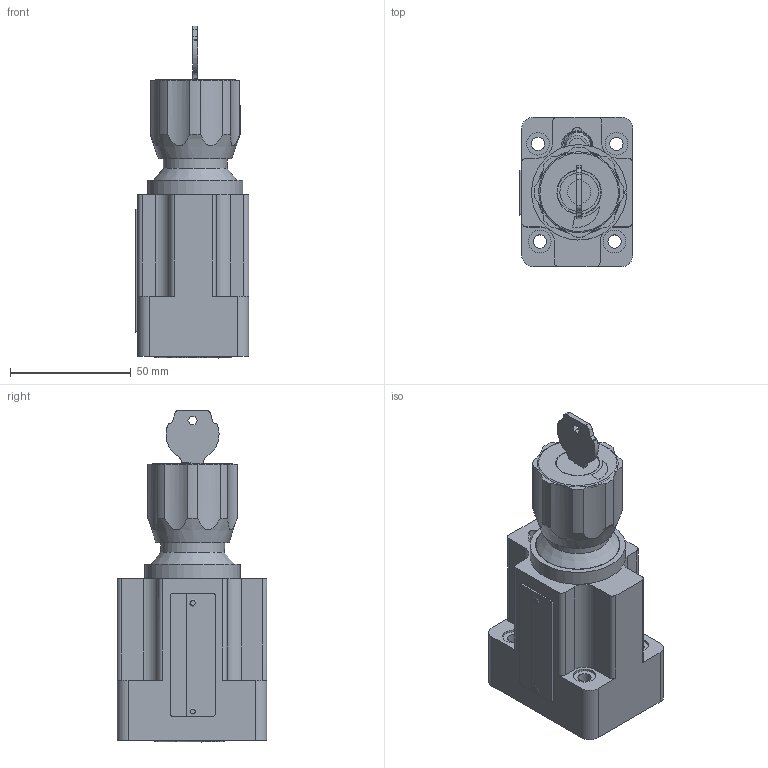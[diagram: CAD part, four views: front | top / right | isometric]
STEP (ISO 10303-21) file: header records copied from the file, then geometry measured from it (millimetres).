
FILE_DESCRIPTION(/* description */ (''),/* implementation_level */ '2;1');
FILE_NAME(/* name */ '2FRM6-36-3XJ-R调速阀.prt.stp',/* time_stamp */ '2022-03-30T19:55:30+08:00',/* author */ (''),/* organization */ (''),/* preprocessor_version */ 'ST-DEVELOPER v16.7',/* originating_system */ 'SIEMENS PLM Software NX 12.0',/* authorisation */ '');
FILE_SCHEMA (('AUTOMOTIVE_DESIGN { 1 0 10303 214 3 1 1 1 }'));
Length unit declared in the file: millimetre
Products named in the file (1): 2FRM6-36-3XJ-R调速阀
Bounding box: 47 x 62.04 x 137.59 mm (x, y, z)
Volume: 205247 mm3; surface area: 51274.7 mm2
Topology: 25 solids, 30 shells, 497 faces, 1237 edges, 815 vertices
Faces by surface type: plane 216, cylinder 167, extrusion 49, torus 26, bspline 17, cone 16, sphere 6
Full cylindrical faces by diameter (mm): 1.8 x6, 2.2 x2, 3 x1, 3.2 x1, 5 x1, 5.5 x4, 6 x5, 7 x1, 9.4 x4, 9.6 x1, 12 x3, 12.2 x3, 12.846 x1, 14.5 x1, 17 x1, 18 x4, 21.8 x2, 25 x1, 26 x1, 26.5 x1, 27.5 x1, 33.5 x1, 34.7 x1
Entity records: 27424 total; most frequent: CARTESIAN_POINT 15105, ORIENTED_EDGE 2224, DIRECTION 2157, EDGE_CURVE 1112, VERTEX_POINT 786, AXIS2_PLACEMENT_3D 778, EDGE_LOOP 627, VECTOR 601
